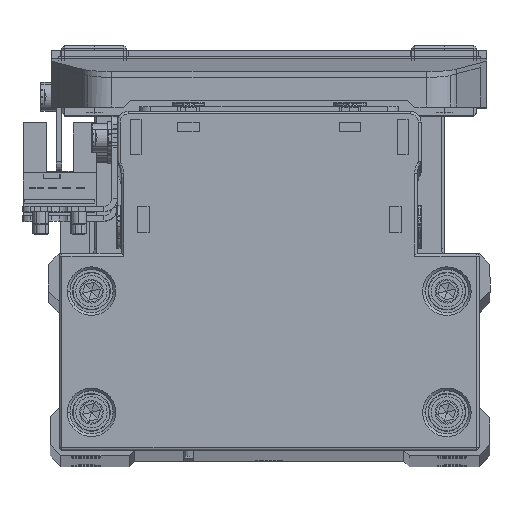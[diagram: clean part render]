
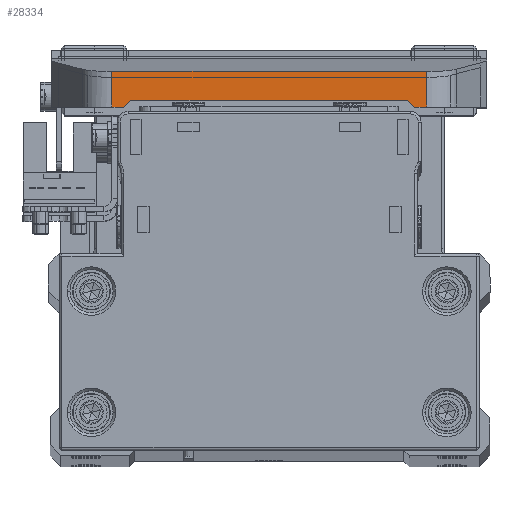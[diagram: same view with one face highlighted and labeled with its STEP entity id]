
A CAD part, top view. The second image highlights one B-rep face of the part: STEP entity #28334.
In plain terms, the highlighted planar face has unit normal (0, 0, 1) as drawn and (-1, 0, 0) by its records, which use the part's own axes.
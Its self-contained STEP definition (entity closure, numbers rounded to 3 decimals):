
#212 = ORIENTED_EDGE ( 'NONE', *, *, #23412, .T. ) ;
#639 = EDGE_CURVE ( 'NONE', #24274, #16824, #8466, .T. ) ;
#1394 = CARTESIAN_POINT ( 'NONE',  ( -67.5, 10.6, 27. ) ) ;
#1427 = ORIENTED_EDGE ( 'NONE', *, *, #639, .T. ) ;
#2780 = LINE ( 'NONE', #14952, #21766 ) ;
#3106 = DIRECTION ( 'NONE',  ( 0., 0., -1. ) ) ;
#3278 = LINE ( 'NONE', #15457, #26149 ) ;
#4050 = ORIENTED_EDGE ( 'NONE', *, *, #21866, .T. ) ;
#4089 = VECTOR ( 'NONE', #33686, 1000. ) ;
#4692 = LINE ( 'NONE', #16855, #20461 ) ;
#6151 = LINE ( 'NONE', #18335, #38420 ) ;
#6417 = VERTEX_POINT ( 'NONE', #36766 ) ;
#7327 = VERTEX_POINT ( 'NONE', #28823 ) ;
#7901 = DIRECTION ( 'NONE',  ( 0., 0., -1. ) ) ;
#8195 = CARTESIAN_POINT ( 'NONE',  ( -67.5, 4., 29.225 ) ) ;
#8466 = LINE ( 'NONE', #20659, #25810 ) ;
#9306 = LINE ( 'NONE', #21489, #4089 ) ;
#9430 = ORIENTED_EDGE ( 'NONE', *, *, #26669, .T. ) ;
#10892 = PLANE ( 'NONE',  #24348 ) ;
#11033 = CARTESIAN_POINT ( 'NONE',  ( -67.5, 9.3, -25.5 ) ) ;
#11391 = VERTEX_POINT ( 'NONE', #38352 ) ;
#12201 = ORIENTED_EDGE ( 'NONE', *, *, #23915, .F. ) ;
#13570 = DIRECTION ( 'NONE',  ( 0., -0.655, -0.756 ) ) ;
#13810 = CARTESIAN_POINT ( 'NONE',  ( -67.5, 10.6, -27. ) ) ;
#14385 = ORIENTED_EDGE ( 'NONE', *, *, #34508, .T. ) ;
#14952 = CARTESIAN_POINT ( 'NONE',  ( -67.5, 10.6, 40.4 ) ) ;
#15457 = CARTESIAN_POINT ( 'NONE',  ( -67.5, 10.6, -27. ) ) ;
#16308 = CARTESIAN_POINT ( 'NONE',  ( -67.5, 10.6, -29.225 ) ) ;
#16824 = VERTEX_POINT ( 'NONE', #16308 ) ;
#16855 = CARTESIAN_POINT ( 'NONE',  ( -67.5, 10.6, 29.225 ) ) ;
#16940 = ORIENTED_EDGE ( 'NONE', *, *, #24424, .T. ) ;
#18293 = LINE ( 'NONE', #30478, #24984 ) ;
#18335 = CARTESIAN_POINT ( 'NONE',  ( -67.5, 4., -29.225 ) ) ;
#20461 = VECTOR ( 'NONE', #29048, 1000. ) ;
#20659 = CARTESIAN_POINT ( 'NONE',  ( -67.5, 10.6, 40.4 ) ) ;
#21489 = CARTESIAN_POINT ( 'NONE',  ( -67.5, 9.3, 25.5 ) ) ;
#21766 = VECTOR ( 'NONE', #27132, 1000. ) ;
#21866 = EDGE_CURVE ( 'NONE', #7327, #6417, #28753, .T. ) ;
#22878 = EDGE_CURVE ( 'NONE', #29953, #28535, #4692, .T. ) ;
#23076 = CARTESIAN_POINT ( 'NONE',  ( -67.5, 10.6, 40.4 ) ) ;
#23412 = EDGE_CURVE ( 'NONE', #28535, #7327, #2780, .T. ) ;
#23611 = ORIENTED_EDGE ( 'NONE', *, *, #22878, .T. ) ;
#23915 = EDGE_CURVE ( 'NONE', #29953, #11391, #18293, .T. ) ;
#24274 = VERTEX_POINT ( 'NONE', #13810 ) ;
#24348 = AXIS2_PLACEMENT_3D ( 'NONE', #23076, #35268, #7901 ) ;
#24424 = EDGE_CURVE ( 'NONE', #16824, #11391, #6151, .T. ) ;
#24984 = VECTOR ( 'NONE', #3106, 1000. ) ;
#25810 = VECTOR ( 'NONE', #32840, 1000. ) ;
#26110 = VECTOR ( 'NONE', #13570, 1000. ) ;
#26149 = VECTOR ( 'NONE', #27647, 1000. ) ;
#26669 = EDGE_CURVE ( 'NONE', #33906, #24274, #3278, .T. ) ;
#27132 = DIRECTION ( 'NONE',  ( 0., 0., -1. ) ) ;
#27647 = DIRECTION ( 'NONE',  ( 0., 0.655, -0.756 ) ) ;
#28334 = ADVANCED_FACE ( 'NONE', ( #38262 ), #10892, .F. ) ;
#28535 = VERTEX_POINT ( 'NONE', #35318 ) ;
#28753 = LINE ( 'NONE', #1394, #26110 ) ;
#28823 = CARTESIAN_POINT ( 'NONE',  ( -67.5, 10.6, 27. ) ) ;
#29048 = DIRECTION ( 'NONE',  ( 0., 1., 0. ) ) ;
#29953 = VERTEX_POINT ( 'NONE', #8195 ) ;
#30478 = CARTESIAN_POINT ( 'NONE',  ( -67.5, 4., 40.4 ) ) ;
#30526 = DIRECTION ( 'NONE',  ( 0., -1., 0. ) ) ;
#32241 = EDGE_LOOP ( 'NONE', ( #14385, #9430, #1427, #16940, #12201, #23611, #212, #4050 ) ) ;
#32840 = DIRECTION ( 'NONE',  ( 0., 0., -1. ) ) ;
#33686 = DIRECTION ( 'NONE',  ( 0., 0., -1. ) ) ;
#33906 = VERTEX_POINT ( 'NONE', #11033 ) ;
#34508 = EDGE_CURVE ( 'NONE', #6417, #33906, #9306, .T. ) ;
#35268 = DIRECTION ( 'NONE',  ( 1., 0., 0. ) ) ;
#35318 = CARTESIAN_POINT ( 'NONE',  ( -67.5, 10.6, 29.225 ) ) ;
#36766 = CARTESIAN_POINT ( 'NONE',  ( -67.5, 9.3, 25.5 ) ) ;
#38262 = FACE_OUTER_BOUND ( 'NONE', #32241, .T. ) ;
#38352 = CARTESIAN_POINT ( 'NONE',  ( -67.5, 4., -29.225 ) ) ;
#38420 = VECTOR ( 'NONE', #30526, 1000. ) ;
